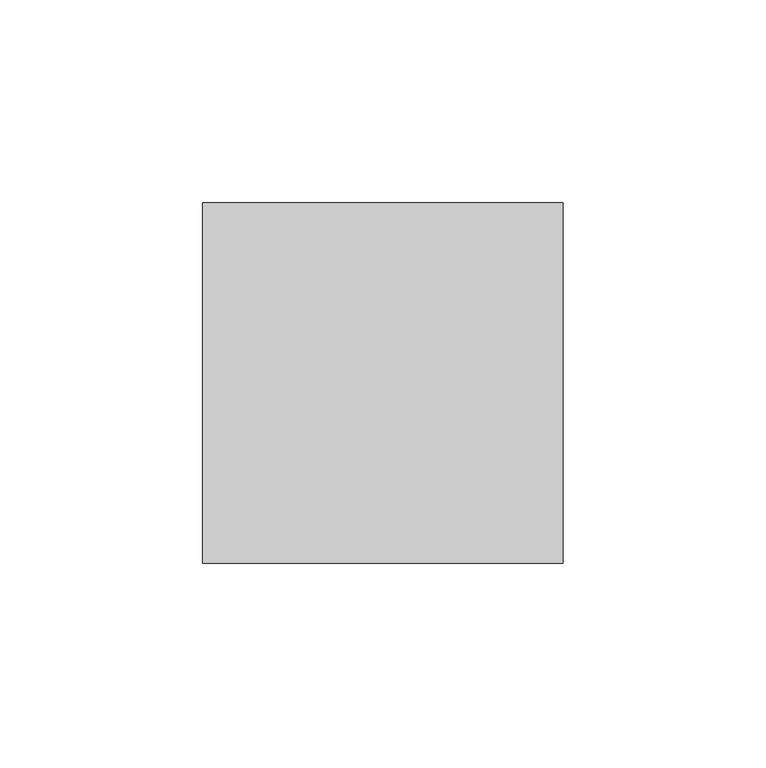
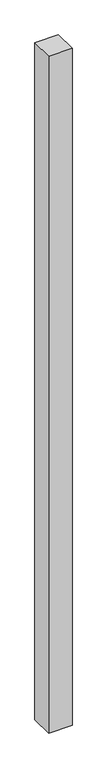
"""IFC4 building model written with IfcOpenShell, lengths in millimetres: column geometry, Trus Joist - TimberStrand LSL - Post Column : TimberStrand® 1.3E – 3 1/2 x 3 1/2”."""

from ifc_helpers import new_model, si_unit, frame, origin, place, context, project, spatial, polyline, outline, extrude, source, transform, mapped, element, save


def column_4bd45d62(model_context):
    return source(origin(), model_context, "Body", "SweptSolid", [
        extrude(outline(polyline([(44.45, 44.45), (44.45, -44.45), (-44.45, -44.45), (-44.45, 44.45), (44.45, 44.45)])), frame((0.0, 0.0, 38.1), z_axis=(0.0, 0.0, 1.0), x_axis=(1.0, 0.0, 0.0)), (0.0, 0.0, 1.0), 2701.925),
    ])


if __name__ == "__main__":
    model = new_model("IFC4")
    model_context = context("Model", 3, world=origin())
    ifc_project = project(units=[si_unit("LENGTHUNIT", "METRE", prefix="MILLI")], contexts=[model_context])
    site = spatial("IfcSite", under=ifc_project)
    building = spatial("IfcBuilding", under=site)
    placement = place(None, origin())
    column_shape = column_4bd45d62(model_context)
    element("IfcColumn", 1, ObjectType="Trus Joist - TimberStrand LSL - Post Column : TimberStrand® 1.3E – 3 1/2 x 3 1/2”", at=placement, inside=building, context=model_context, shape_type="MappedRepresentation", body=[
        mapped(column_shape, transform((0.0, 0.0, 0.0), x_axis=(1.0, 0.0, 0.0), y_axis=(0.0, 1.0, 0.0), z_axis=(0.0, 0.0, 1.0))),
    ])
    save(model, "model.ifc")
